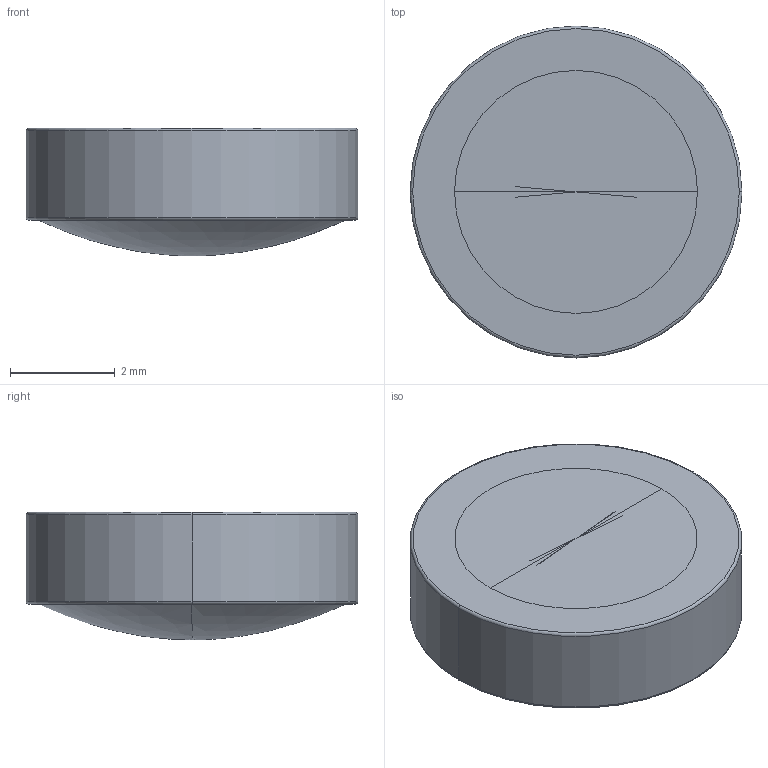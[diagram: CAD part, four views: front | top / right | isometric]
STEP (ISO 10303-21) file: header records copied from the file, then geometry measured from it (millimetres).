
FILE_DESCRIPTION((''),'2;1');
FILE_NAME('354061','2025-07-27T10:24:03',('admin'),('LIGHTPATH'),'CREO PARAMETRIC BY PTC INC, 2024063','CREO PARAMETRIC BY PTC INC, 2024063','');
FILE_SCHEMA(('CONFIG_CONTROL_DESIGN'));
Length unit declared in the file: millimetre
Products named in the file (1): 354061
Bounding box: 6.33 x 6.33 x 2.43 mm (x, y, z)
Volume: 64.3 mm3; surface area: 98.2 mm2
Topology: 1 solids, 1 shells, 14 faces, 30 edges, 16 vertices
Faces by surface type: torus 6, revolution 4, plane 2, cylinder 2
Entity records: 671 total; most frequent: CARTESIAN_POINT 335, DIRECTION 68, ORIENTED_EDGE 52, AXIS2_PLACEMENT_3D 30, EDGE_CURVE 26, CIRCLE 20, VERTEX_POINT 16, EDGE_LOOP 16
